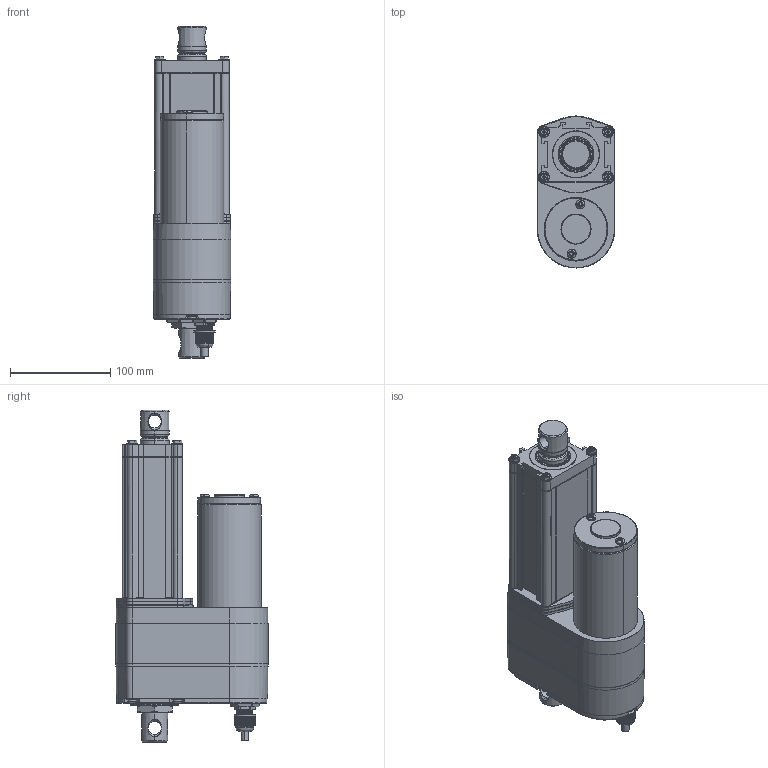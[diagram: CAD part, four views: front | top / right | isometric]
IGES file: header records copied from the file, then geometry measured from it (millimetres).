
Start section: SolidWorks IGES file using analytic representation for surfaces
Global section: file name: C:\Users\lynn\Desktop\工作用資料夾\3D CAD Models Community\0-給產品部\ID12\新增IP69K\ID12-A-100-POT-IP69K.IGS; native system: SolidWorks 2020; preprocessor: SolidWorks 2020; author: lynn; date: 221019.170224; units: millimetre
Bounding box: 77.3 x 151.8 x 331.5 mm (x, y, z)
Surface area: 205110.2 mm2 (no closed solid volume)
Topology: 0 solids, 0 shells, 2583 faces, 24620 edges, 24592 vertices
Faces by surface type: bspline 1655, revolution 928
